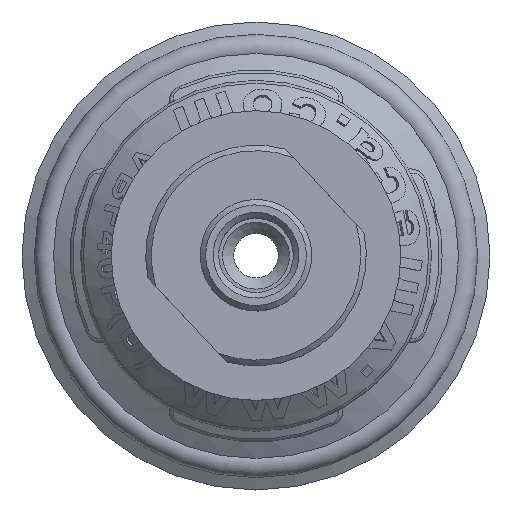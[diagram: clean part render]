
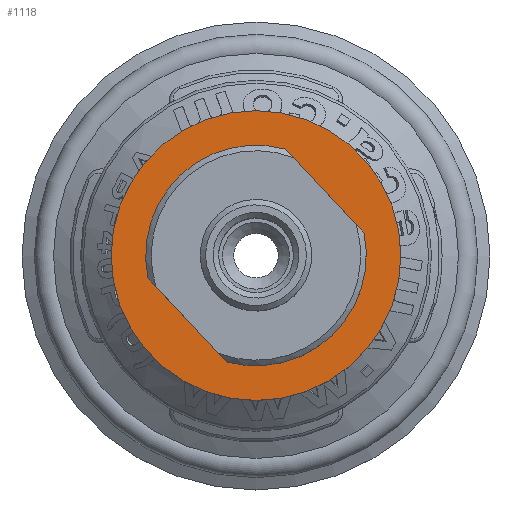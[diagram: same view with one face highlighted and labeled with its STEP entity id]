
A CAD part, top view. The second image highlights one B-rep face of the part: STEP entity #1118.
In plain terms, the highlighted planar face has unit normal (0, 0, 1).
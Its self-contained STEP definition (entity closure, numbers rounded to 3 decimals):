
#1118 = ADVANCED_FACE( '', ( #2437, #2438 ), #2439, .T. );
#2437 = FACE_BOUND( '', #8591, .T. );
#2438 = FACE_OUTER_BOUND( '', #8592, .T. );
#2439 = PLANE( '', #8593 );
#8591 = EDGE_LOOP( '', ( #13479, #13480, #13481, #13482 ) );
#8592 = EDGE_LOOP( '', ( #13483 ) );
#8593 = AXIS2_PLACEMENT_3D( '', #13484, #13485, #13486 );
#13479 = ORIENTED_EDGE( '', *, *, #15962, .F. );
#13480 = ORIENTED_EDGE( '', *, *, #15769, .F. );
#13481 = ORIENTED_EDGE( '', *, *, #14676, .T. );
#13482 = ORIENTED_EDGE( '', *, *, #15305, .F. );
#13483 = ORIENTED_EDGE( '', *, *, #14883, .T. );
#13484 = CARTESIAN_POINT( '', ( 11.5, 0., 11.5 ) );
#13485 = DIRECTION( '', ( 0., 0., 1. ) );
#13486 = DIRECTION( '', ( 1., 0., 0. ) );
#14676 = EDGE_CURVE( '', #16284, #16285, #16286, .T. );
#14883 = EDGE_CURVE( '', #16654, #16654, #16655, .T. );
#15305 = EDGE_CURVE( '', #17353, #16285, #17356, .T. );
#15769 = EDGE_CURVE( '', #16284, #18032, #18033, .T. );
#15962 = EDGE_CURVE( '', #18032, #17353, #18279, .T. );
#16284 = VERTEX_POINT( '', #18751 );
#16285 = VERTEX_POINT( '', #18752 );
#16286 = LINE( '', #18753, #18754 );
#16654 = VERTEX_POINT( '', #20031 );
#16655 = CIRCLE( '', #20032, 13. );
#17353 = VERTEX_POINT( '', #22143 );
#17356 = CIRCLE( '', #22147, 9.9 );
#18032 = VERTEX_POINT( '', #24939 );
#18033 = CIRCLE( '', #24940, 9.9 );
#18279 = LINE( '', #25489, #25490 );
#18751 = CARTESIAN_POINT( '', ( -2.648, -9.539, 11.5 ) );
#18752 = CARTESIAN_POINT( '', ( -9.695, -2.005, 11.5 ) );
#18753 = CARTESIAN_POINT( '', ( -0.806, -11.509, 11.5 ) );
#18754 = VECTOR( '', #26066, 1000. );
#20031 = CARTESIAN_POINT( '', ( 13., 0., 11.5 ) );
#20032 = AXIS2_PLACEMENT_3D( '', #26164, #26165, #26166 );
#22143 = CARTESIAN_POINT( '', ( 2.648, 9.539, 11.5 ) );
#22147 = AXIS2_PLACEMENT_3D( '', #26485, #26486, #26487 );
#24939 = CARTESIAN_POINT( '', ( 9.695, 2.005, 11.5 ) );
#24940 = AXIS2_PLACEMENT_3D( '', #26752, #26753, #26754 );
#25489 = CARTESIAN_POINT( '', ( 11.537, 0.035, 11.5 ) );
#25490 = VECTOR( '', #26923, 1000. );
#26066 = DIRECTION( '', ( -0.683, 0.73, 0. ) );
#26164 = CARTESIAN_POINT( '', ( 0., 0., 11.5 ) );
#26165 = DIRECTION( '', ( 0., 0., 1. ) );
#26166 = DIRECTION( '', ( 1., 0., 0. ) );
#26485 = CARTESIAN_POINT( '', ( 0., 0., 11.5 ) );
#26486 = DIRECTION( '', ( 0., 0., 1. ) );
#26487 = DIRECTION( '', ( 1., 0., 0. ) );
#26752 = CARTESIAN_POINT( '', ( 0., 0., 11.5 ) );
#26753 = DIRECTION( '', ( 0., 0., 1. ) );
#26754 = DIRECTION( '', ( 1., 0., 0. ) );
#26923 = DIRECTION( '', ( -0.683, 0.73, 0. ) );
